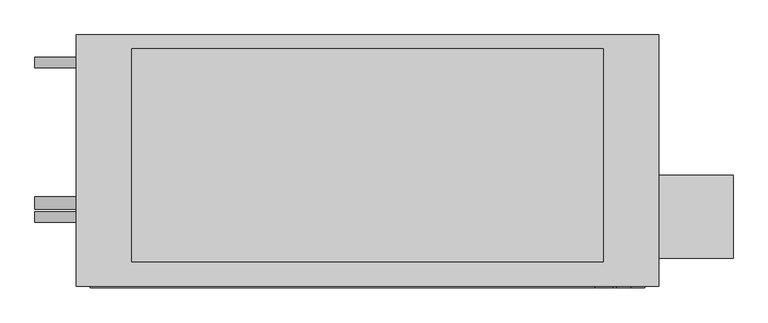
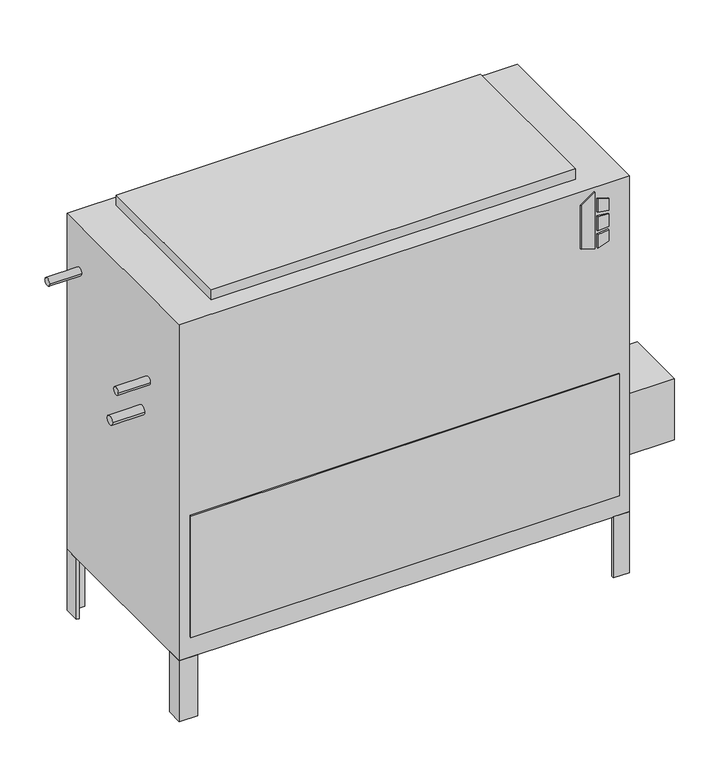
"""IFC4 building model written with IfcOpenShell, lengths in millimetres: proxy geometry, Concealed_High_Capacity_Vertical_Fan_Coil_Unit_-_VEY_-_IEC_-_2-Pipe_Cool-EHeat_LH_2022 : Size 14 - 277v/60Hz/1Ph - 6 Row 10.0kW."""

from ifc_helpers import new_model, si_unit, point, frame, frame_2d, origin, origin_with_axes, place, context, project, spatial, polyline, circle_curve, trimmed, segment, composite_curve, outline, extrude, source, transform, mapped, element, save


def mechanical_equipment_b1bf49b5(model_context):
    return source(origin(), model_context, "Body", "SweptSolid", [
        extrude(outline(polyline([(698.9230703, 569.9868862), (688.975, 602.1602728), (831.1459244, 602.1602728), (808.1239183, 569.9868862), (698.9230703, 569.9868862)])), frame((0.0, -471.4875, 0.0), z_axis=(0.0, 1.0, 0.0), x_axis=(0.0, 0.0, 1.0)), (0.0, 0.0, 1.0), 3.175),
        extrude(outline(polyline([(777.9223557, 608.9186058), (774.7199632, 635.0), (803.9488042, 635.0), (812.0132193, 608.9186058), (777.9223557, 608.9186058)])), frame((0.0, -471.4875, 0.0), z_axis=(0.0, 1.0, 0.0), x_axis=(0.0, 0.0, 1.0)), (0.0, 0.0, 1.0), 3.175),
        extrude(outline(polyline([(726.0588288, 635.0), (722.3933279, 608.9186058), (688.975, 608.9186058), (697.6092372, 635.0), (726.0588288, 635.0)])), frame((0.0, -471.4875, 0.0), z_axis=(0.0, 1.0, 0.0), x_axis=(0.0, 0.0, 1.0)), (0.0, 0.0, 1.0), 3.175),
        extrude(outline(polyline([(765.3739903, 635.0), (767.6558166, 608.9186058), (731.7182681, 608.9186058), (734.4595331, 635.0), (765.3739903, 635.0)])), frame((0.0, -471.4875, 0.0), z_axis=(0.0, 1.0, 0.0), x_axis=(0.0, 0.0, 1.0)), (0.0, 0.0, 1.0), 3.175),
        extrude(outline(polyline([(685.8, -417.5125), (685.8, -265.1125), (822.325, -265.1125), (822.325, -417.5125), (685.8, -417.5125)])), frame((0.0, 0.0, 101.6), z_axis=(0.0, 0.0, 1.0), x_axis=(1.0, 0.0, 0.0)), (0.0, 0.0, 1.0), 152.4),
        extrude(outline(polyline([(685.8, -46.0375), (679.45, -46.0375), (679.45, -14.2875), (647.7, -14.2875), (647.7, -7.9375), (685.8, -7.9375), (685.8, -46.0375)])), frame((0.0, 0.0, -152.4), z_axis=(0.0, 0.0, 1.0), x_axis=(1.0, 0.0, 0.0)), (0.0, 0.0, 1.0), 152.4),
        extrude(outline(polyline([(-342.9, -7.9375), (-342.9, -14.2875), (-374.65, -14.2875), (-374.65, -46.0375), (-381.0, -46.0375), (-381.0, -7.9375), (-342.9, -7.9375)])), frame((0.0, 0.0, -152.4), z_axis=(0.0, 0.0, 1.0), x_axis=(1.0, 0.0, 0.0)), (0.0, 0.0, 1.0), 152.4),
        extrude(outline(polyline([(647.7, -468.3125), (647.7, -461.9625), (679.45, -461.9625), (679.45, -430.2125), (685.8, -430.2125), (685.8, -468.3125), (647.7, -468.3125)])), frame((0.0, 0.0, -152.4), z_axis=(0.0, 0.0, 1.0), x_axis=(1.0, 0.0, 0.0)), (0.0, 0.0, 1.0), 152.4),
        extrude(outline(polyline([(-381.0, -428.1199163), (-374.65, -428.1199163), (-374.65, -461.9625), (-337.5318533, -461.9625), (-337.5318533, -468.3125), (-381.0, -468.3125), (-381.0, -428.1199163)])), frame((0.0, 0.0, -152.4), z_axis=(0.0, 0.0, 1.0), x_axis=(1.0, 0.0, 0.0)), (0.0, 0.0, 1.0), 152.4),
        extrude(outline(polyline([(584.2, -33.3375), (584.2, -423.8625), (-279.4, -423.8625), (-279.4, -33.3375), (584.2, -33.3375)])), frame((0.0, 0.0, 841.375), z_axis=(0.0, 0.0, 1.0), x_axis=(1.0, 0.0, 0.0)), (0.0, 0.0, 1.0), 25.4),
        extrude(outline(polyline([(660.4, -471.4875), (-355.6, -471.4875), (-355.6, -468.3125), (660.4, -468.3125), (660.4, -471.4875)])), frame((0.0, 0.0, 50.8), z_axis=(0.0, 0.0, 1.0), x_axis=(1.0, 0.0, 0.0)), (0.0, 0.0, 1.0), 304.8),
        extrude(outline(composite_curve([segment(trimmed(circle_curve(frame_2d((-58.7375, 727.075)), 9.525), [point((-68.2625, 727.075))], [point((-49.2125, 727.075))], False, "CARTESIAN"), True, "CONTINUOUS"), segment(trimmed(circle_curve(frame_2d((-58.7375, 727.075)), 9.525), [point((-49.2125, 727.075))], [point((-68.2625, 727.075))], False, "CARTESIAN"), True, "CONTINUOUS")], self_intersect=False)), frame((-457.2, 0.0, 0.0), z_axis=(1.0, 0.0, 0.0), x_axis=(0.0, 1.0, 0.0)), (0.0, 0.0, 1.0), 76.2),
        extrude(outline(composite_curve([segment(trimmed(circle_curve(frame_2d((-341.3125, 625.475)), 9.525), [point((-350.8375, 625.475))], [point((-331.7875, 625.475))], False, "CARTESIAN"), True, "CONTINUOUS"), segment(trimmed(circle_curve(frame_2d((-341.3125, 625.475)), 9.525), [point((-331.7875, 625.475))], [point((-350.8375, 625.475))], False, "CARTESIAN"), True, "CONTINUOUS")], self_intersect=False)), frame((-457.2, 0.0, 0.0), z_axis=(1.0, 0.0, 0.0), x_axis=(0.0, 1.0, 0.0)), (0.0, 0.0, 1.0), 76.2),
        extrude(outline(composite_curve([segment(trimmed(circle_curve(frame_2d((-315.9125, 536.575)), 11.1125), [point((-327.025, 536.575))], [point((-304.8, 536.575))], False, "CARTESIAN"), True, "CONTINUOUS"), segment(trimmed(circle_curve(frame_2d((-315.9125, 536.575)), 11.1125), [point((-304.8, 536.575))], [point((-327.025, 536.575))], False, "CARTESIAN"), True, "CONTINUOUS")], self_intersect=False)), frame((-457.2, 0.0, 0.0), z_axis=(1.0, 0.0, 0.0), x_axis=(0.0, 1.0, 0.0)), (0.0, 0.0, 1.0), 76.2),
        extrude(outline(polyline([(685.8, -7.9375), (685.8, -468.3125), (-381.0, -468.3125), (-381.0, -7.9375), (685.8, -7.9375)])), origin_with_axes(), (0.0, 0.0, 1.0), 841.375),
    ])


if __name__ == "__main__":
    model = new_model("IFC4")
    model_context = context("Model", 3, world=origin())
    ifc_project = project(units=[si_unit("LENGTHUNIT", "METRE", prefix="MILLI")], contexts=[model_context])
    site = spatial("IfcSite", under=ifc_project)
    building = spatial("IfcBuilding", under=site)
    placement = place(None, origin())
    mechanical_equipment_shape = mechanical_equipment_b1bf49b5(model_context)
    element("IfcBuildingElementProxy", 1, Name="Concealed_High_Capacity_Vertical_Fan_Coil_Unit_-_VEY_-_IEC_-_2-Pipe_Cool-EHeat_LH_2022 : Size 14 - 277v/60Hz/1Ph - 6 Row 10.0kW", ObjectType="Concealed_High_Capacity_Vertical_Fan_Coil_Unit_-_VEY_-_IEC_-_2-Pipe_Cool-EHeat_LH_2022 : Size 14 - 277v/60Hz/1Ph - 6 Row 10.0kW", at=placement, inside=building, context=model_context, shape_type="MappedRepresentation", body=[
        mapped(mechanical_equipment_shape, transform((0.0, 0.0, 0.0), x_axis=(1.0, 0.0, 0.0), y_axis=(0.0, 1.0, 0.0), z_axis=(0.0, 0.0, 1.0))),
    ])
    save(model, "model.ifc")
